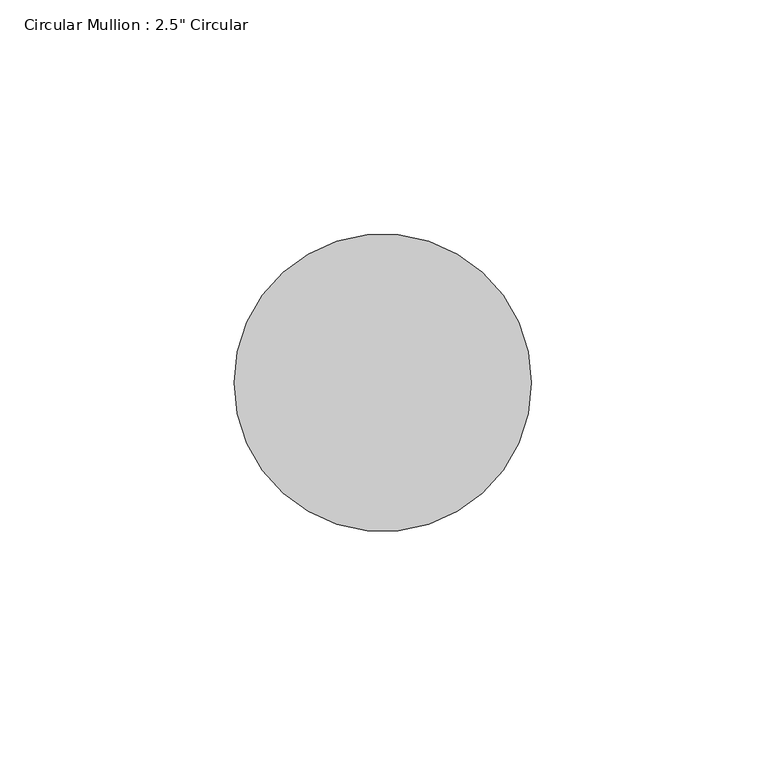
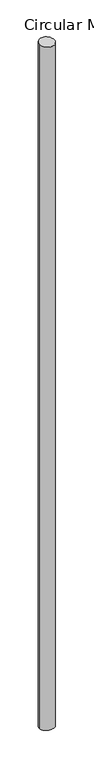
"""IFC4 building model written with IfcOpenShell, lengths in millimetres: member geometry."""

import ifcopenshell
import ifcopenshell.guid

model = None  # the IFC model being written
_history = None  # IfcOwnerHistory: only IFC2X3 demands one
_inside = {}  # id of a spatial element -> (the spatial element, [elements in it])
_under = {}  # id of a project, library or spatial element -> (it, [spatial elements below it])
_declared = {}  # id of a project -> (the project, [libraries it declares])
_typed = {}  # id of a type object -> (the type object, [elements of that type])
_made_of = {}  # id of a material, layer set ... -> (it, [elements and type objects made of it])


def new_model(schema):
    """Start an empty IFC model of exactly this schema.

    Asked for "IFC4X3", IfcOpenShell would pick the latest addendum, in which some entities
    have other attributes; the version numbers below select the first issue.
    IFC2X3 requires an IfcOwnerHistory on every rooted entity: one is made here for all.
    """
    global model, _history
    if schema == "IFC4X3":
        model = ifcopenshell.file(schema_version=(4, 3, 0, 0))
    else:
        model = ifcopenshell.file(schema=schema)
    _inside.clear()
    _under.clear()
    _declared.clear()
    _typed.clear()
    _made_of.clear()
    _history = None
    if model.schema == "IFC2X3":
        org = make("IfcOrganization", Name="unknown")
        user = make(
            "IfcPersonAndOrganization",
            ThePerson=make("IfcPerson", FamilyName="unknown"),
            TheOrganization=org,
        )
        app = make(
            "IfcApplication",
            ApplicationDeveloper=org,
            Version="unknown",
            ApplicationFullName="unknown",
            ApplicationIdentifier="unknown",
        )
        _history = make(
            "IfcOwnerHistory",
            OwningUser=user,
            OwningApplication=app,
            ChangeAction="ADDED",
            CreationDate=0,
        )
    return model


def make(cls, **values):
    """One entity of the class cls with the attributes given. An attribute that is None is left unset."""
    return model.create_entity(
        cls, **{name: value for name, value in values.items() if value is not None}
    )


def rooted(cls, **values):
    """An entity with a GlobalId (a new one), such as an element, a storey or a relation."""
    return make(cls, GlobalId=ifcopenshell.guid.new(), OwnerHistory=_history, **values)


def si_unit(unit_type, name, prefix=None):
    """IfcSIUnit, for example si_unit("LENGTHUNIT", "METRE", prefix="MILLI")."""
    return make("IfcSIUnit", UnitType=unit_type, Prefix=prefix, Name=name)


def assignment(units):
    """IfcUnitAssignment: the units of a project."""
    return None if units is None else make("IfcUnitAssignment", Units=units)


def point(xyz):
    """IfcCartesianPoint."""
    return None if xyz is None else make("IfcCartesianPoint", Coordinates=xyz)


def direction(xyz):
    """IfcDirection."""
    return None if xyz is None else make("IfcDirection", DirectionRatios=xyz)


def frame(location, z_axis=None, x_axis=None):
    """IfcAxis2Placement3D, a coordinate frame: its origin and axes. An axis left out is left unset."""
    return make(
        "IfcAxis2Placement3D",
        Location=point(location),
        Axis=direction(z_axis),
        RefDirection=direction(x_axis),
    )


def origin():
    """The frame at (0, 0, 0) with its axes left unset."""
    return frame((0.0, 0.0, 0.0))


def origin_with_axes():
    """The frame at (0, 0, 0) with the z axis (0, 0, 1) and the x axis (1, 0, 0) written out."""
    return frame((0.0, 0.0, 0.0), z_axis=(0.0, 0.0, 1.0), x_axis=(1.0, 0.0, 0.0))


def place(relative_to, where):
    """IfcLocalPlacement: puts the frame where relative to a parent placement (None: the world)."""
    return make(
        "IfcLocalPlacement", PlacementRelTo=relative_to, RelativePlacement=where
    )


def context(
    kind, dimensions, precision=None, world=None, true_north=None, identifier=None
):
    """IfcGeometricRepresentationContext, for example the 3D "Model" context."""
    return make(
        "IfcGeometricRepresentationContext",
        ContextIdentifier=identifier,
        ContextType=kind,
        CoordinateSpaceDimension=dimensions,
        Precision=precision,
        WorldCoordinateSystem=world,
        TrueNorth=true_north,
    )


def project(units=None, contexts=None):
    """IfcProject with its units and contexts."""
    return rooted(
        "IfcProject",
        Name="project",
        RepresentationContexts=contexts,
        UnitsInContext=assignment(units),
    )


def spatial(cls, under=None, at=None, **own):
    """A site, building, storey or space (cls), placed at a placement, below another one or the project."""
    s = rooted(cls, ObjectPlacement=at, **own)
    if under is not None:
        _under.setdefault(under.id(), (under, []))[1].append(s)
    return s


def ellipse_curve(where, semi_axis1, semi_axis2):
    """IfcEllipse in the frame where."""
    return make(
        "IfcEllipse", Position=where, SemiAxis1=semi_axis1, SemiAxis2=semi_axis2
    )


def shape(context_of_items, identifier, shape_type, items):
    """IfcShapeRepresentation: the items that make up one representation, for example the "Body"."""
    return make(
        "IfcShapeRepresentation",
        ContextOfItems=context_of_items,
        RepresentationIdentifier=identifier,
        RepresentationType=shape_type,
        Items=items,
    )


def source(mapping_origin, context_of_items, identifier, shape_type, items):
    """IfcRepresentationMap: a shape defined once, which mapped items show again and again."""
    return make(
        "IfcRepresentationMap",
        MappingOrigin=mapping_origin,
        MappedRepresentation=shape(context_of_items, identifier, shape_type, items),
    )


def transform(
    local_origin,
    x_axis=None,
    y_axis=None,
    z_axis=None,
    scale=None,
    scale2=None,
    scale3=None,
    uniform=True,
):
    """IfcCartesianTransformationOperator3D, or its non-uniform kind. x_axis, y_axis, z_axis: its Axis1, 2, 3."""
    if uniform:
        return make(
            "IfcCartesianTransformationOperator3D",
            Axis1=direction(x_axis),
            Axis2=direction(y_axis),
            LocalOrigin=point(local_origin),
            Scale=scale,
            Axis3=direction(z_axis),
        )
    return make(
        "IfcCartesianTransformationOperator3DnonUniform",
        Axis1=direction(x_axis),
        Axis2=direction(y_axis),
        LocalOrigin=point(local_origin),
        Scale=scale,
        Axis3=direction(z_axis),
        Scale2=scale2,
        Scale3=scale3,
    )


def mapped(mapping_source, mapping_target):
    """IfcMappedItem: shows the shape of a source again, moved by a transform."""
    return make(
        "IfcMappedItem", MappingSource=mapping_source, MappingTarget=mapping_target
    )


def made_of(thing, what):
    """Note that an element or type object is made of a material, layer set ...; save() writes the relation."""
    if what is not None:
        _made_of.setdefault(what.id(), (what, []))[1].append(thing)
    return thing


def element(
    cls,
    number,
    at=None,
    inside=None,
    cuts=None,
    type_object=None,
    material=None,
    context=None,
    identifier="Body",
    shape_type=None,
    held_by="IfcProductDefinitionShape",
    body=None,
    shapes=None,
    **own,
):
    """One element of the class cls, such as IfcWall. Its Tag is "e" and its number.

    at: its placement. inside: the storey or other place that contains it. cuts: it is an
    opening in that element (IfcRelVoidsElement). A single representation is given by context,
    identifier, shape_type and body (its items); several are given by shapes. held_by: the class
    of the entity that holds the representations. save() writes the other relations.
    """
    e = rooted(cls, Tag="e%d" % number, ObjectPlacement=at, **own)
    if body is not None:
        shapes = [shape(context, identifier, shape_type, body)]
    if shapes is not None:
        e.Representation = make(held_by, Representations=shapes)
    if inside is not None:
        _inside.setdefault(inside.id(), (inside, []))[1].append(e)
    if cuts is not None:
        rooted(
            "IfcRelVoidsElement", RelatingBuildingElement=cuts, RelatedOpeningElement=e
        )
    if type_object is not None:
        _typed.setdefault(type_object.id(), (type_object, []))[1].append(e)
    return made_of(e, material)


def aggregate(whole, parts):
    """IfcRelAggregates: a whole, such as a stair, and the parts it consists of."""
    return rooted("IfcRelAggregates", RelatingObject=whole, RelatedObjects=parts)


def save(model, path):
    """Write the relations noted so far, then the file.

    IfcRelAggregates (storeys below a building ...), IfcRelContainedInSpatialStructure (elements
    in a storey), IfcRelDefinesByType, IfcRelAssociatesMaterial and IfcRelDeclares: one each for
    every whole, place, type object, material and project.
    """
    for whole, parts in _under.values():
        aggregate(whole, parts)
    for where, things in _inside.values():
        rooted(
            "IfcRelContainedInSpatialStructure",
            RelatedElements=things,
            RelatingStructure=where,
        )
    for kind, things in _typed.values():
        rooted("IfcRelDefinesByType", RelatedObjects=things, RelatingType=kind)
    for what, things in _made_of.values():
        rooted("IfcRelAssociatesMaterial", RelatedObjects=things, RelatingMaterial=what)
    for by, libraries in _declared.values():
        rooted("IfcRelDeclares", RelatingContext=by, RelatedDefinitions=libraries)
    model.write(path)


def plane_surface(at):
    """IfcPlane: the flat surface through the origin of the frame at, square to its z axis."""
    return make("IfcPlane", Position=at)


def cylinder_surface(at, radius):
    """IfcCylindricalSurface: all points at the distance radius from the z axis of the frame at."""
    return make("IfcCylindricalSurface", Position=at, Radius=radius)


def advanced_brep(points, edges, surfaces, faces):
    """IfcAdvancedBrep: a solid bounded by faces that lie on surfaces and meet in shared edges.

    An edge is (start, end): straight between two places in points (the first is 0);
    or (start, end, curve); or (start, end, curve, False) where it runs against its curve.
    A face is (place in surfaces, loops), or (place, loops, False) where it looks against
    its surface's normal. A loop lists edges by number (the first is 1), with a minus sign
    where the edge is run from its end to its start. The first loop is the outer one.
    """
    corners = [point(p) for p in points]
    vertices = [make("IfcVertexPoint", VertexGeometry=c) for c in corners]
    made = []
    for start, end, *more in edges:
        made.append(
            make(
                "IfcEdgeCurve",
                EdgeStart=vertices[start],
                EdgeEnd=vertices[end],
                EdgeGeometry=more[0] if more else make("IfcPolyline", Points=[corners[start], corners[end]]),
                SameSense=more[1] if len(more) > 1 else True,
            )
        )
    hull = []
    for where, loops, *sense in faces:
        bounds = []
        for j, loop in enumerate(loops):
            ring = [make("IfcOrientedEdge", EdgeElement=made[abs(k) - 1], Orientation=k > 0) for k in loop]
            bounds.append(
                make(
                    "IfcFaceOuterBound" if j == 0 else "IfcFaceBound",
                    Bound=make("IfcEdgeLoop", EdgeList=ring),
                    Orientation=True,
                )
            )
        hull.append(make("IfcAdvancedFace", Bounds=bounds, FaceSurface=surfaces[where], SameSense=sense[0] if sense else True))
    return make("IfcAdvancedBrep", Outer=make("IfcClosedShell", CfsFaces=hull))


def member_be079538(model_context):
    return source(origin(), model_context, "Body", "AdvancedBrep", [
        advanced_brep(
        [(-31.75, 0.0, 0.622547), (31.75, 0.0, -0.622547), (31.75, 0.0, -3053.7990893), (-31.75, 0.0, -3055.3670465)],
        [
            (0, 1, ellipse_curve(frame((0.0, 0.0, 0.0), z_axis=(-0.019570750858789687, 0.058228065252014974, -0.9981114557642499), x_axis=(-0.3179897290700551, 0.9461020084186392, 0.06142899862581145)), 31.8100747, 31.75)),
            (1, 2),
            (2, 3, ellipse_curve(frame((0.0, 0.0, -3054.5830679), z_axis=(-0.024609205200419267, 0.0781582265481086, 0.9966371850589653), x_axis=(0.29931853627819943, -0.950628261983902, 0.08194096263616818)), 31.8571296, 31.75)),
            (3, 0),
            (1, 0, ellipse_curve(frame((0.0, 0.0, 0.0), z_axis=(-0.019570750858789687, 0.058228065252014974, -0.9981114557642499), x_axis=(-0.3179897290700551, 0.9461020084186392, 0.06142899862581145)), 31.8100747, 31.75)),
            (3, 2, ellipse_curve(frame((0.0, 0.0, -3054.5830679), z_axis=(-0.024609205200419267, 0.0781582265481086, 0.9966371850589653), x_axis=(0.29931853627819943, -0.950628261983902, 0.08194096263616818)), 31.8571296, 31.75)),
        ],
        [
            cylinder_surface(origin_with_axes(), 31.75),
            plane_surface(frame((288.9175257, 97.1066596, 0.0), z_axis=(0.01957075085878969, -0.05822806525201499, 0.9981114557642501), x_axis=(0.317989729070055, -0.9461020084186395, -0.06142899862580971))),
            plane_surface(frame((290.7291626, 91.5401223, -3054.5830679), z_axis=(0.024609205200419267, -0.0781582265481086, -0.9966371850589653), x_axis=(0.29931853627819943, -0.950628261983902, 0.08194096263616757))),
        ],
        [
            (0, [[1, 2, 3, 4]]),
            (0, [[5, -4, 6, -2]]),
            (1, [[-1, -5]]),
            (2, [[-6, -3]]),
        ],
    ),
    ])


if __name__ == "__main__":
    model = new_model("IFC4")
    model_context = context("Model", 3, world=origin())
    ifc_project = project(units=[si_unit("LENGTHUNIT", "METRE", prefix="MILLI")], contexts=[model_context])
    site = spatial("IfcSite", under=ifc_project)
    building = spatial("IfcBuilding", under=site)
    placement = place(None, origin())
    member_shape = member_be079538(model_context)
    element("IfcMember", 1, ObjectType="Circular Mullion : 2.5\" Circular", at=placement, inside=building, context=model_context, shape_type="MappedRepresentation", body=[
        mapped(member_shape, transform((0.0, 0.0, 0.0), x_axis=(1.0, 0.0, 0.0), y_axis=(0.0, 1.0, 0.0), z_axis=(0.0, 0.0, 1.0))),
    ])
    save(model, "model.ifc")
